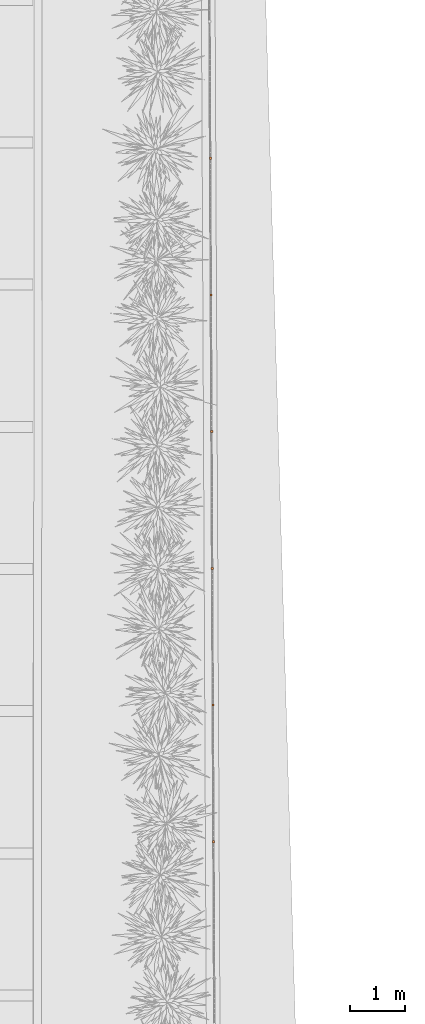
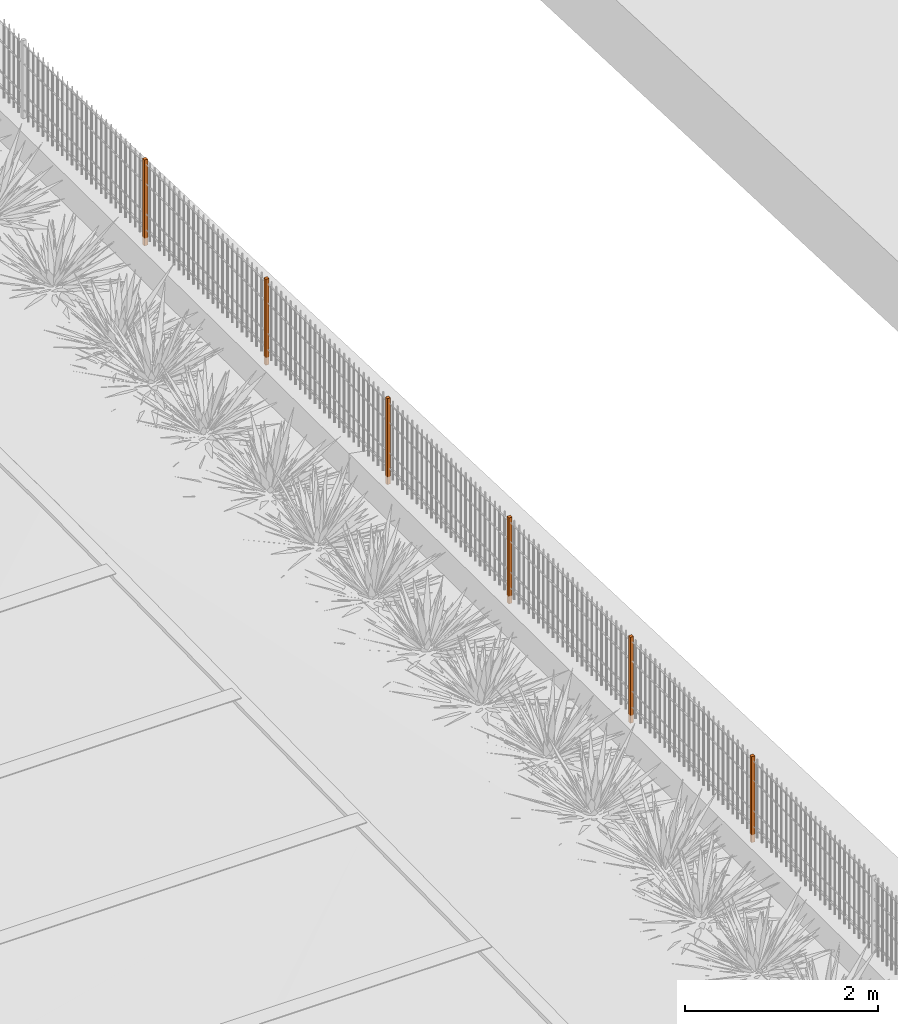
# One storey, part 41 of 1809: 6 proxies, 1 element without a shape of its own.
"""IFC2X3 building model written with IfcOpenShell, lengths in millimetres."""

from ifc_helpers import new_model, entity, si_unit, converted_unit, derived_unit, money_unit, direction, frame, origin_with_axes, place, context, subcontext, project, spatial, faceted_brep, source, transform, mapped, material, type_object, element, aggregate, save


model = new_model("IFC2X3")

# Units and contexts
model_context = context("Model", 3, precision=0.01, world=origin_with_axes(), true_north=direction((0.0, 1.0)))
body_context = subcontext(model_context, "Body", "Model", "MODEL_VIEW")
ifc_project = project(units=[si_unit("LENGTHUNIT", "METRE", prefix="MILLI"), si_unit("AREAUNIT", "SQUARE_METRE"), si_unit("VOLUMEUNIT", "CUBIC_METRE"), converted_unit("PLANEANGLEUNIT", "DEGREE", entity("IfcPlaneAngleMeasure", 0.0174532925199), si_unit("PLANEANGLEUNIT", "RADIAN"), dimensions=[0, 0, 0, 0, 0, 0, 0]), si_unit("SOLIDANGLEUNIT", "STERADIAN"), money_unit("EUR"), converted_unit("TIMEUNIT", "Year", entity("IfcTimeMeasure", 31556926.0), si_unit("TIMEUNIT", "SECOND"), dimensions=[0, 0, 1, 0, 0, 0, 0]), si_unit("MASSUNIT", "GRAM", prefix="KILO"), si_unit("THERMODYNAMICTEMPERATUREUNIT", "DEGREE_CELSIUS"), si_unit("LUMINOUSINTENSITYUNIT", "LUMEN"), si_unit("ENERGYUNIT", "JOULE", prefix="MEGA"), derived_unit("THERMALCONDUCTANCEUNIT", [(si_unit("POWERUNIT", "WATT"), 1), (si_unit("LENGTHUNIT", "METRE"), -1), (si_unit("THERMODYNAMICTEMPERATUREUNIT", "KELVIN"), -1)]), derived_unit("SPECIFICHEATCAPACITYUNIT", [(si_unit("ENERGYUNIT", "JOULE"), 1), (si_unit("MASSUNIT", "GRAM", prefix="KILO"), -1), (si_unit("THERMODYNAMICTEMPERATUREUNIT", "KELVIN"), -1)]), derived_unit("MASSDENSITYUNIT", [(si_unit("MASSUNIT", "GRAM", prefix="KILO"), 1), (si_unit("VOLUMEUNIT", "CUBIC_METRE"), -1)])], contexts=[model_context])

# Site, building, storey
site_placement = place(None, origin_with_axes())
site = spatial("IfcSite", under=ifc_project, at=site_placement, Name="Politse- ja Piirivalveameti ning Päästeameti ühishoone", CompositionType="ELEMENT")
building_placement = place(site_placement, origin_with_axes())
building = spatial("IfcBuilding", under=site, at=building_placement, Name="Politse- ja Piirivalveameti ning Päästeameti ühishoone", CompositionType="ELEMENT")
storey_placement = place(building_placement, origin_with_axes())
storey = spatial("IfcBuildingStorey", under=building, at=storey_placement, Name="Esimene korrus", CompositionType="ELEMENT", Elevation=0.0)

# Proxies
building_element_proxy_type_1 = type_object("IfcBuildingElementProxyType", Name="Railing Type", PredefinedType="NOTDEFINED")
proxy_1_placement = place(storey_placement, frame((88449.2204314, 58319.144353, 0.0), z_axis=(0.0, 0.0, 1.0), x_axis=(1.0, 0.0, 0.0)))
proxy_1 = element("IfcBuildingElementProxy", 1, at=proxy_1_placement, inside=storey, type_object=building_element_proxy_type_1, Name="PIIRDEAED")
ifc_material = material(Name="Teras - Konstruktsioon")
building_element_proxy_type_2 = type_object("IfcBuildingElementProxyType", Name="IfcBuildingElementProxy", PredefinedType="NOTDEFINED")
shared_shape_1 = source(origin_with_axes(), body_context, "Body", "Brep", [
    faceted_brep([(20.0, 20.0, 0.0), (-20.0, 20.0, 0.0), (-20.0, 20.0, 1089.70588235), (20.0, 20.0, 1089.70588235), (20.0, -20.0, 0.0), (-20.0, -20.0, 0.0), (-20.0, -20.0, 1089.70588235), (20.0, -20.0, 1089.70588235)], [[[0, 1, 2, 3]], [[0, 4, 5, 1]], [[1, 5, 6, 2]], [[3, 2, 6, 7]], [[4, 0, 3, 7]], [[5, 4, 7, 6]]]),
])
proxy_2_placement = place(proxy_1_placement, frame((501.914656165, 2462.06274469, 0.0), z_axis=(0.0, 0.0, 1.0), x_axis=(1.0, 0.0, 0.0)))
proxy_2 = element("IfcBuildingElementProxy", 2, at=proxy_2_placement, type_object=building_element_proxy_type_2, material=ifc_material, Name="SISEPOST - 001", context=body_context, shape_type="MappedRepresentation", body=[
    mapped(shared_shape_1, transform((0.0, 0.0, 0.0), x_axis=(0.999988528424, 0.00478988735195, 0.0), y_axis=(-0.00478988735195, 0.999988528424, 0.0), z_axis=(0.0, 0.0, 1.0))),
])
proxy_3_placement = place(proxy_1_placement, frame((489.939937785, 4962.03406575, 0.0), z_axis=(0.0, 0.0, 1.0), x_axis=(1.0, 0.0, 0.0)))
proxy_3 = element("IfcBuildingElementProxy", 3, at=proxy_3_placement, type_object=building_element_proxy_type_2, material=ifc_material, Name="SISEPOST - 001", context=body_context, shape_type="MappedRepresentation", body=[
    mapped(shared_shape_1, transform((0.0, 0.0, 0.0), x_axis=(0.999988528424, 0.00478988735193, 0.0), y_axis=(-0.00478988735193, 0.999988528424, 0.0), z_axis=(0.0, 0.0, 1.0))),
])
shared_shape_2 = source(origin_with_axes(), body_context, "Body", "Brep", [
    faceted_brep([(20.0, 20.0, 0.0), (-20.0, 20.0, 0.0), (-20.0, 20.0, 1089.70588235), (20.0, 20.0, 1089.70588235), (20.0, -20.0, 0.0), (-20.0, -20.0, 0.0), (-20.0, -20.0, 1089.70588235), (20.0, -20.0, 1089.70588235)], [[[0, 1, 2, 3]], [[0, 4, 5, 1]], [[1, 5, 6, 2]], [[3, 2, 6, 7]], [[4, 0, 3, 7]], [[5, 4, 7, 6]]]),
])
proxy_4_placement = place(proxy_1_placement, frame((477.965219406, 7462.00538681, 0.0), z_axis=(0.0, 0.0, 1.0), x_axis=(1.0, 0.0, 0.0)))
proxy_4 = element("IfcBuildingElementProxy", 4, at=proxy_4_placement, type_object=building_element_proxy_type_2, material=ifc_material, Name="SISEPOST - 001", context=body_context, shape_type="MappedRepresentation", body=[
    mapped(shared_shape_2, transform((0.0, 0.0, 0.0), x_axis=(0.999988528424, 0.00478988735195, 0.0), y_axis=(-0.00478988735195, 0.999988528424, 0.0), z_axis=(0.0, 0.0, 1.0))),
])
proxy_5_placement = place(proxy_1_placement, frame((465.990501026, 9961.97670787, 0.0), z_axis=(0.0, 0.0, 1.0), x_axis=(1.0, 0.0, 0.0)))
proxy_5 = element("IfcBuildingElementProxy", 5, at=proxy_5_placement, type_object=building_element_proxy_type_2, material=ifc_material, Name="SISEPOST - 001", context=body_context, shape_type="MappedRepresentation", body=[
    mapped(shared_shape_2, transform((0.0, 0.0, 0.0), x_axis=(0.999988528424, 0.00478988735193, 0.0), y_axis=(-0.00478988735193, 0.999988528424, 0.0), z_axis=(0.0, 0.0, 1.0))),
])
proxy_6_placement = place(proxy_1_placement, frame((442.041064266, 14961.91935, 0.0), z_axis=(0.0, 0.0, 1.0), x_axis=(1.0, 0.0, 0.0)))
proxy_6 = element("IfcBuildingElementProxy", 6, at=proxy_6_placement, type_object=building_element_proxy_type_2, material=ifc_material, Name="SISEPOST - 001", context=body_context, shape_type="MappedRepresentation", body=[
    mapped(shared_shape_2, transform((0.0, 0.0, 0.0), x_axis=(0.999988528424, 0.00478988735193, 0.0), y_axis=(-0.00478988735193, 0.999988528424, 0.0), z_axis=(0.0, 0.0, 1.0))),
])
shared_shape_3 = source(origin_with_axes(), body_context, "Body", "Brep", [
    faceted_brep([(20.0, 20.0, 0.0), (-20.0, 20.0, 0.0), (-20.0, 20.0, 1089.70588235), (20.0, 20.0, 1089.70588235), (20.0, -20.0, 0.0), (-20.0, -20.0, 0.0), (-20.0, -20.0, 1089.70588235), (20.0, -20.0, 1089.70588235)], [[[0, 1, 2, 3]], [[0, 4, 5, 1]], [[1, 5, 6, 2]], [[3, 2, 6, 7]], [[4, 0, 3, 7]], [[5, 4, 7, 6]]]),
])
proxy_7_placement = place(proxy_1_placement, frame((454.015782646, 12461.9480289, 0.0), z_axis=(0.0, 0.0, 1.0), x_axis=(1.0, 0.0, 0.0)))
proxy_7 = element("IfcBuildingElementProxy", 7, at=proxy_7_placement, type_object=building_element_proxy_type_2, material=ifc_material, Name="SISEPOST - 001", context=body_context, shape_type="MappedRepresentation", body=[
    mapped(shared_shape_3, transform((0.0, 0.0, 0.0), x_axis=(0.999988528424, 0.00478988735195, 0.0), y_axis=(-0.00478988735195, 0.999988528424, 0.0), z_axis=(0.0, 0.0, 1.0))),
])
aggregate(proxy_1, [proxy_2, proxy_3, proxy_4, proxy_5, proxy_7, proxy_6])

save(model, "model.ifc")
